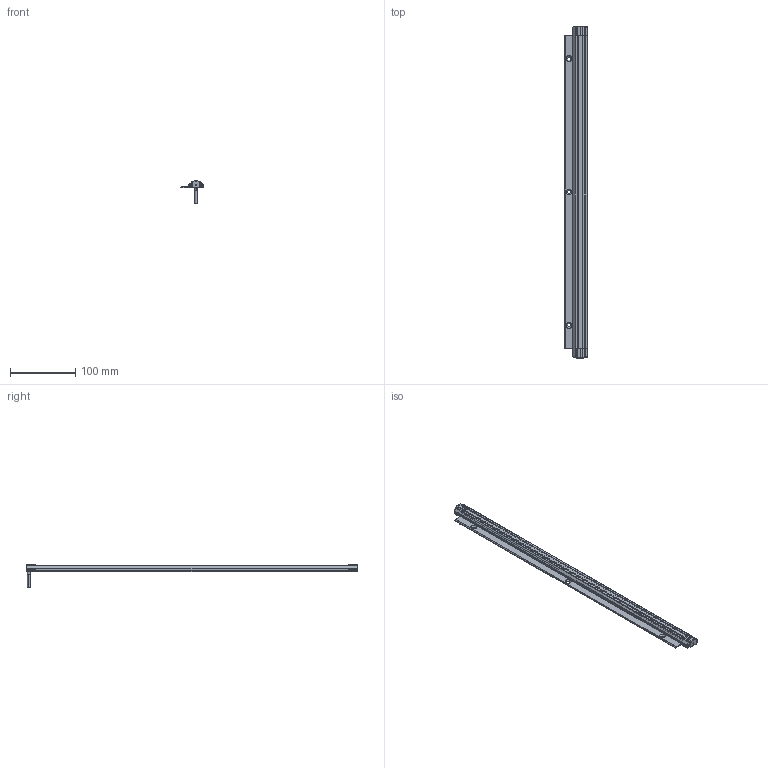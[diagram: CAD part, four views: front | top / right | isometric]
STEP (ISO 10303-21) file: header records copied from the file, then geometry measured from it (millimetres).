
FILE_DESCRIPTION (( 'STEP AP214' ), '1' );
FILE_NAME ('ILGA-L-K1a-0510mm.STEP', '2026-04-24T23:08:48', ( '' ), ( '' ), 'SwSTEP 2.0', 'SolidWorks 2025', '' );
FILE_SCHEMA (( 'AUTOMOTIVE_DESIGN' ));
Length unit declared in the file: millimetre
Products named in the file (1): ILGA-L-K1a-0510mm
Bounding box: 35 x 510 x 34.2 mm (x, y, z)
Volume: 54372 mm3; surface area: 79412.8 mm2
Topology: 9 solids, 9 shells, 682 faces, 1772 edges, 1082 vertices
Faces by surface type: plane 293, cylinder 247, cone 58, torus 44, bspline 24, sphere 16
Entity records: 28645 total; most frequent: CARTESIAN_POINT 4437, DIRECTION 3618, ORIENTED_EDGE 3456, EDGE_CURVE 1728, AXIS2_PLACEMENT_3D 1351, VERTEX_POINT 1082, LINE 916, VECTOR 916
